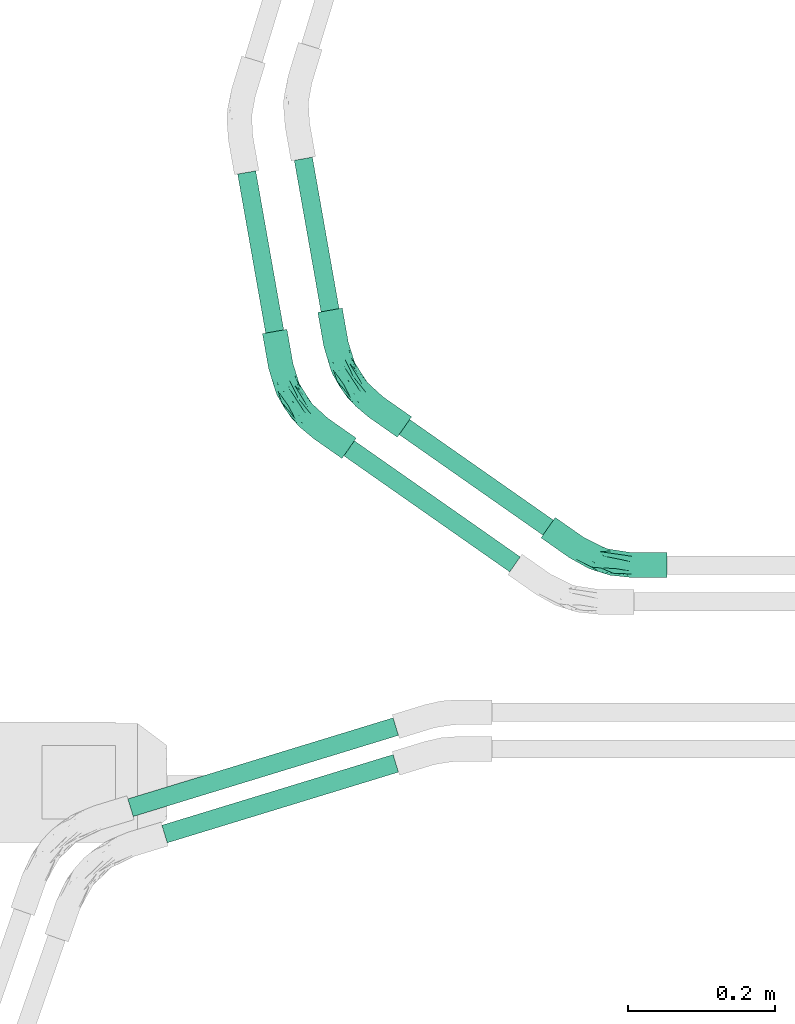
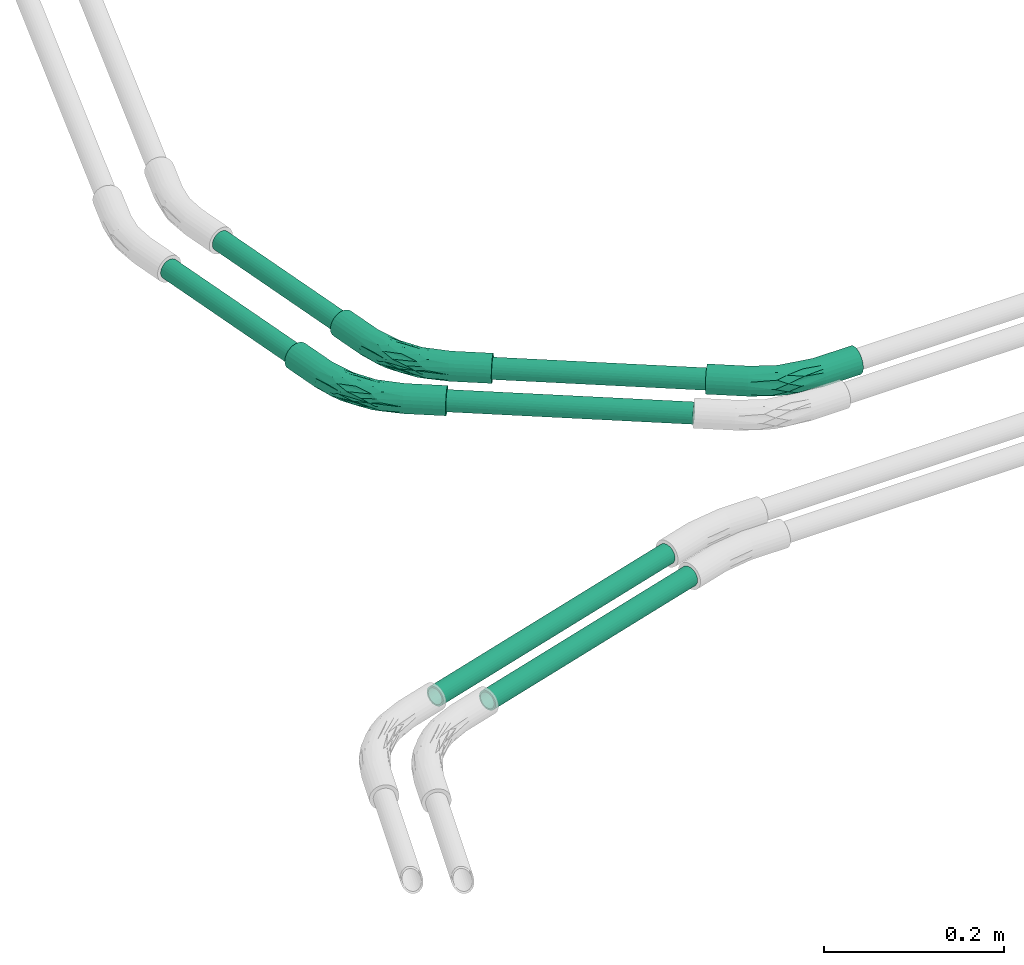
# One storey, part 4 of 22: 6 flow segments, 3 flow fittings.
"""IFC2X3 building model written with IfcOpenShell, lengths in millimetres."""

from ifc_helpers import new_model, entity, si_unit, converted_unit, derived_unit, direction, frame, origin_with_axes, origin_2d_with_axis, place, context, subcontext, project, spatial, hollow_circle, extrude, open_shell, surface_model, source, transform, mapped, type_object, element, save


model = new_model("IFC2X3")

# Units and contexts
model_context = context("Model", 3, precision=0.01, world=frame((0.0, 4.29681676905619e-09, 0.0)), true_north=direction((4.01073788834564e-13, 1.0)))
plan_context = context("Plan", 3, precision=0.01, world=frame((0.0, 4.29681676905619e-09, 0.0)), true_north=direction((4.01073788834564e-13, 1.0)))
body_context = subcontext(model_context, "Body", "Model", "MODEL_VIEW")
ifc_project = project(units=[converted_unit("PLANEANGLEUNIT", "DEGREE", entity("IfcPositiveLengthMeasure", 0.0174532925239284), si_unit("PLANEANGLEUNIT", "RADIAN"), dimensions=[0, 0, 0, 0, 0, 0, 0]), si_unit("AREAUNIT", "SQUARE_METRE"), si_unit("LENGTHUNIT", "METRE", prefix="MILLI"), si_unit("MASSUNIT", "GRAM", prefix="KILO"), si_unit("POWERUNIT", "WATT"), si_unit("PRESSUREUNIT", "PASCAL", prefix="KILO"), si_unit("FORCEUNIT", "NEWTON", prefix="KILO"), si_unit("ELECTRICVOLTAGEUNIT", "VOLT"), si_unit("ELECTRICCURRENTUNIT", "AMPERE"), si_unit("THERMODYNAMICTEMPERATUREUNIT", "DEGREE_CELSIUS"), si_unit("TIMEUNIT", "SECOND"), si_unit("VOLUMEUNIT", "CUBIC_METRE"), derived_unit("LINEARVELOCITYUNIT", [(si_unit("LENGTHUNIT", "METRE"), 1), (si_unit("TIMEUNIT", "SECOND"), -1)]), derived_unit("VOLUMETRICFLOWRATEUNIT", [(si_unit("VOLUMEUNIT", "CUBIC_METRE"), 1), (si_unit("TIMEUNIT", "SECOND"), -1)]), derived_unit("THERMALTRANSMITTANCEUNIT", [(si_unit("POWERUNIT", "WATT"), 1), (si_unit("THERMODYNAMICTEMPERATUREUNIT", "KELVIN"), -1), (si_unit("AREAUNIT", "SQUARE_METRE"), -1)]), derived_unit("SOUNDPRESSUREUNIT", [(si_unit("PRESSUREUNIT", "PASCAL"), 1)])], contexts=[model_context, plan_context])

# Site, building, storey
site_placement = place(None, frame((0.0, -4.29681676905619e-09, 0.0), z_axis=(0.0, 0.0, 1.0), x_axis=(1.0, 0.0, 0.0)))
site = spatial("IfcSite", under=ifc_project, at=site_placement, Name="ENGM", CompositionType="ELEMENT")
building_placement = place(site_placement, frame((0.0, 4.29681676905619e-09, 0.0), z_axis=(0.0, 0.0, 1.0), x_axis=(1.0, 0.0, 0.0)))
building = spatial("IfcBuilding", under=site, at=building_placement, Name="TI", CompositionType="ELEMENT")
storey_placement = place(building_placement, frame((0.0, 0.0, 210900.0), z_axis=(0.0, 0.0, 1.0), x_axis=(1.0, 0.0, 0.0)))
storey = spatial("IfcBuildingStorey", under=building, at=storey_placement, Name="Nivå F", CompositionType="ELEMENT", Elevation=210900.0)

# Flow fittings
cable_carrier_fitting_type = type_object("IfcCableCarrierFittingType", Name="Trekkerør, glatt bend", PredefinedType="BEND")
shared_shape_1 = source(origin_with_axes(), body_context, "Body", "SurfaceModel", [
    surface_model("IfcShellBasedSurfaceModel", [(-101.90646, 8.46055, -14.6541), (-101.90646, 4.3795, -16.34452), (-101.90646, 0.0, -16.92109), (-101.90646, 14.6541, -8.46055), (-101.90646, -8.46055, -14.6541), (-101.90646, 11.96502, -11.96502), (-101.90646, -16.92109, 0.0), (-101.90646, -16.34452, 4.3795), (-101.90646, -11.96502, -11.96502), (-101.90646, -14.6541, -8.46055), (-101.90646, -4.3795, -16.34452), (-101.90646, -16.34452, -4.3795), (-101.90646, 16.92109, 0.0), (-101.90646, 16.34452, -4.3795), (-101.90646, 16.34452, 4.3795), (-101.90646, 14.6541, 8.46055), (-101.90646, 8.46055, 14.6541), (-101.90646, 11.96502, 11.96502), (-101.90646, 0.0, 16.92109), (-101.90646, 4.3795, 16.34452), (-101.90646, -11.96502, 11.96502), (-101.90646, -8.46055, 14.6541), (-101.90646, -14.6541, 8.46055), (-101.90646, -4.3795, 16.34452), (-54.58849, -16.92109, 0.0), (-54.58849, -16.34452, 4.3795), (-54.58849, -14.6541, 8.46055), (-54.58849, -11.96502, 11.96502), (-54.58849, -8.46055, 14.6541), (-54.58849, -4.3795, 16.34452), (-54.58849, 0.0, 16.92109), (-54.58849, 4.3795, 16.34452), (-54.58849, 8.46055, 14.6541), (-54.58849, 11.96502, 11.96502), (-54.58849, 14.6541, 8.46055), (-54.58849, 16.34452, 4.3795), (-54.58849, 16.92109, 0.0), (-54.58849, 16.34452, -4.3795), (-54.58849, 14.6541, -8.46055), (-54.58849, 11.96502, -11.96502), (-54.58849, 8.46055, -14.6541), (-54.58849, 4.3795, -16.34452), (-54.58849, 0.0, -16.92109), (-54.58849, -4.3795, -16.34452), (-54.58849, -8.46055, -14.6541), (-54.58849, -11.96502, -11.96502), (-54.58849, -14.6541, -8.46055), (-54.58849, -16.34452, -4.3795), (10.9245, -1.31078, 3.47544), (-13.36235, -10.76027, 3.27049), (-16.09967, -11.85394, 0.0), (41.69667, 35.50312, 16.34452), (38.59989, 38.59989, 16.92109), (22.26214, 21.90343, 16.76352), (-19.66365, -2.12805, 15.57779), (-29.58477, -8.16493, 13.36262), (-20.60685, -9.47816, 10.19127), (-34.07223, 17.39409, 6.62821), (-10.25807, 24.76518, 5.65746), (-29.40446, 19.36118, 3.4046), (-3.22837, 7.79397, 16.74683), (-31.22977, -0.25365, 16.76352), (35.50312, 41.69667, 16.34452), (32.61738, 44.5824, 14.6541), (17.47707, 29.1678, 15.66764), (-16.62388, 19.5721, 10.43045), (-25.92736, 13.63005, 13.4985), (5.09993, 25.84703, 13.50914), (-21.17216, 6.44783, 16.79403), (19.76619, 3.00218, 0.0), (-6.56017, 15.83764, 15.71089), (-32.9829, 8.26659, 15.66764), (19.50033, 6.79523, 10.18462), (48.96191, 28.23788, 8.46055), (47.06044, 30.13935, 11.96502), (-0.14544, 0.35113, 13.28643), (-24.85868, 20.8351, 0.0), (44.5824, 32.61738, 14.6541), (26.69306, 15.14611, 13.36262), (8.9424, 34.00903, 7.47137), (8.93562, 35.31889, 4.60583), (25.73601, 8.11548, 6.36012), (-6.07752, -7.50254, 6.29064), (28.23788, 48.96191, 8.46055), (10.0687, 32.56851, 10.38353), (30.13935, 47.06044, 11.96502), (-30.89964, -14.04008, 5.64535), (16.01237, 12.75836, 15.5789), (12.05401, 20.50658, 16.79305), (50.15722, 27.04257, 4.3795), (50.56491, 26.63487, 0.0), (32.88314, 11.79305, 2.69799), (2.8451, 32.31038, 0.0), (26.63487, 50.56491, 0.0), (27.04257, 50.15722, 4.3795), (-32.9829, 8.26659, -15.66764), (16.55602, 18.09298, -16.75967), (38.59989, 38.59989, -16.92109), (41.69667, 35.50312, -16.34452), (30.13935, 47.06044, -11.96502), (32.61738, 44.5824, -14.6541), (8.69552, 27.97131, -13.4985), (-6.56017, 15.83764, -15.71089), (-21.88281, 14.67041, -13.50914), (-31.29267, 18.65579, -4.60583), (-30.37125, 17.72478, -7.47137), (-10.25807, 24.76517, -5.65746), (-1.59965, 3.86188, -15.54749), (17.63726, 9.2923, -13.33594), (-19.1381, -5.92521, -13.33619), (-2.08471, 25.59442, -10.43045), (-30.14906, 15.90977, -10.38353), (-24.73941, 5.56629, -16.79215), (10.41167, 19.53028, -16.79403), (-18.36618, -11.17146, -6.33871), (-28.92763, -11.20296, -10.21852), (-19.67101, 2.27248, -16.75686), (-22.81878, -13.17372, -3.2081), (17.47707, 29.1678, -15.66764), (-30.36783, -4.42984, -15.59506), (24.60567, 18.34093, -15.59506), (35.50312, 41.69667, -16.34452), (7.10167, 34.48251, -3.4046), (27.04257, 50.15722, -4.3795), (44.5824, 32.61738, -14.6541), (47.06044, 30.13935, -11.96502), (28.23788, 48.96191, -8.46055), (11.79322, 36.39219, -6.62821), (1.03493, -2.49855, -10.11808), (48.96191, 28.23788, -8.46055), (28.37661, 12.53324, -10.21852), (20.88626, 5.08744, -6.33871), (25.45054, 6.82009, -3.2081), (2.19574, -5.30098, -3.30061), (50.15722, 27.04257, -4.3795), (60.50143, 83.61607, -4.3795), (72.05875, 72.05875, -16.92109), (68.96197, 75.15552, -16.34452), (66.07624, 78.04126, -14.6541), (63.5982, 80.51929, -11.96502), (61.69674, 82.42076, -8.46055), (75.15552, 68.96197, -16.34452), (80.51929, 63.5982, -11.96502), (78.04126, 66.07624, -14.6541), (83.61607, 60.50143, -4.3795), (82.42076, 61.69674, -8.46055), (83.61607, 60.50143, 4.3795), (84.02377, 60.09373, 0.0), (75.15552, 68.96197, 16.34452), (60.50143, 83.61607, 4.3795), (61.69674, 82.42076, 8.46055), (66.07624, 78.04126, 14.6541), (72.05875, 72.05875, 16.92109), (63.5982, 80.51929, 11.96502), (68.96197, 75.15552, 16.34452), (80.51929, 63.5982, 11.96502), (82.42076, 61.69674, 8.46055), (78.04126, 66.07624, 14.6541), (60.09373, 84.02377, 0.0)], [open_shell([[[0, 1, 2]], [[3, 0, 2]], [[4, 3, 2]], [[5, 0, 3]], [[3, 6, 7]], [[8, 9, 4]], [[2, 10, 4]], [[9, 11, 4]], [[11, 3, 4]], [[3, 11, 6]], [[12, 13, 3]], [[12, 7, 14]], [[14, 7, 15]], [[16, 17, 18]], [[15, 18, 17]], [[18, 19, 16]], [[20, 21, 22]], [[15, 7, 22]], [[23, 18, 21]], [[15, 22, 21]], [[15, 21, 18]], [[3, 7, 12]], [[7, 24, 25]], [[26, 22, 25]], [[21, 27, 28]], [[26, 27, 20]], [[23, 28, 29]], [[24, 7, 6]], [[25, 22, 7]], [[26, 20, 22]], [[27, 21, 20]], [[23, 21, 28]], [[29, 18, 23]], [[29, 30, 18]], [[16, 31, 32]], [[33, 17, 32]], [[14, 34, 35]], [[33, 34, 15]], [[12, 35, 36]], [[31, 19, 30]], [[31, 16, 19]], [[30, 19, 18]], [[32, 17, 16]], [[33, 15, 17]], [[14, 15, 34]], [[35, 12, 14]], [[13, 36, 37]], [[38, 3, 37]], [[0, 39, 40]], [[38, 39, 5]], [[1, 40, 41]], [[36, 13, 12]], [[37, 3, 13]], [[38, 5, 3]], [[39, 0, 5]], [[1, 0, 40]], [[41, 2, 1]], [[41, 42, 2]], [[4, 43, 44]], [[45, 8, 44]], [[11, 46, 47]], [[45, 46, 9]], [[6, 47, 24]], [[43, 10, 42]], [[43, 4, 10]], [[42, 10, 2]], [[44, 8, 4]], [[45, 9, 8]], [[11, 9, 46]], [[47, 6, 11]], [[48, 49, 50]], [[49, 24, 50]], [[51, 52, 53]], [[29, 28, 54]], [[27, 55, 28]], [[56, 27, 26]], [[57, 58, 59]], [[60, 61, 54]], [[61, 30, 29]], [[62, 63, 64]], [[65, 66, 67]], [[31, 30, 68]], [[48, 50, 69]], [[67, 66, 70]], [[33, 32, 66]], [[65, 58, 57]], [[71, 32, 31]], [[72, 73, 74]], [[56, 72, 75]], [[59, 76, 36]], [[74, 77, 78]], [[36, 35, 59]], [[58, 79, 80]], [[81, 72, 82]], [[70, 71, 68]], [[83, 84, 85]], [[25, 49, 86]], [[34, 33, 65]], [[87, 77, 51]], [[54, 87, 60]], [[72, 56, 82]], [[88, 70, 68]], [[72, 81, 73]], [[73, 81, 89]], [[88, 62, 64]], [[78, 72, 74]], [[60, 88, 68]], [[90, 89, 91]], [[48, 81, 82]], [[55, 56, 75]], [[84, 67, 85]], [[59, 92, 76]], [[26, 86, 56]], [[92, 80, 93]], [[75, 78, 87]], [[80, 79, 94]], [[87, 51, 53]], [[70, 64, 67]], [[61, 68, 30]], [[65, 84, 79]], [[60, 53, 88]], [[67, 63, 85]], [[88, 52, 62]], [[65, 33, 66]], [[75, 87, 54]], [[91, 81, 48]], [[66, 32, 71]], [[55, 54, 28]], [[79, 84, 83]], [[67, 84, 65]], [[56, 55, 27]], [[54, 55, 75]], [[87, 78, 77]], [[72, 78, 75]], [[94, 79, 83]], [[65, 79, 58]], [[93, 80, 94]], [[92, 58, 80]], [[54, 61, 29]], [[68, 61, 60]], [[88, 53, 52]], [[87, 53, 60]], [[48, 82, 49]], [[91, 48, 69]], [[90, 91, 69]], [[81, 91, 89]], [[86, 49, 82]], [[24, 49, 25]], [[56, 86, 82]], [[26, 25, 86]], [[68, 71, 31]], [[66, 71, 70]], [[67, 64, 63]], [[88, 64, 70]], [[57, 35, 34]], [[92, 59, 58]], [[35, 57, 59]], [[65, 57, 34]], [[40, 95, 41]], [[96, 97, 98]], [[99, 100, 101]], [[102, 95, 103]], [[76, 104, 36]], [[104, 105, 37]], [[104, 106, 105]], [[107, 108, 109]], [[105, 110, 111]], [[40, 39, 103]], [[110, 99, 101]], [[112, 102, 113]], [[114, 46, 115]], [[116, 113, 96]], [[24, 47, 117]], [[110, 101, 103]], [[114, 47, 46]], [[101, 100, 118]], [[119, 44, 43]], [[112, 41, 95]], [[46, 45, 115]], [[45, 44, 109]], [[107, 119, 116]], [[113, 116, 112]], [[96, 98, 120]], [[113, 121, 97]], [[122, 76, 92]], [[112, 116, 42]], [[93, 123, 122]], [[124, 125, 108]], [[43, 42, 116]], [[110, 126, 99]], [[102, 103, 101]], [[106, 122, 127]], [[100, 121, 118]], [[128, 115, 109]], [[109, 44, 119]], [[127, 110, 106]], [[128, 109, 108]], [[113, 102, 118]], [[120, 98, 124]], [[113, 97, 96]], [[129, 130, 125]], [[107, 120, 108]], [[42, 41, 112]], [[107, 116, 96]], [[128, 130, 131]], [[128, 131, 114]], [[69, 132, 90]], [[69, 133, 132]], [[50, 117, 133]], [[133, 117, 114]], [[133, 69, 50]], [[129, 134, 131]], [[130, 108, 125]], [[122, 92, 93]], [[111, 103, 39]], [[38, 111, 39]], [[105, 111, 38]], [[103, 111, 110]], [[109, 115, 45]], [[114, 115, 128]], [[131, 130, 129]], [[108, 130, 128]], [[37, 105, 38]], [[110, 105, 106]], [[36, 104, 37]], [[76, 106, 104]], [[116, 119, 43]], [[109, 119, 107]], [[108, 120, 124]], [[96, 120, 107]], [[114, 131, 133]], [[132, 133, 131]], [[103, 95, 40]], [[112, 95, 102]], [[113, 118, 121]], [[101, 118, 102]], [[24, 117, 50]], [[47, 114, 117]], [[131, 134, 132]], [[90, 132, 134]], [[127, 123, 126]], [[76, 122, 106]], [[123, 127, 122]], [[110, 127, 126]], [[135, 136, 137]], [[135, 137, 138]], [[139, 140, 135]], [[139, 135, 138]], [[136, 135, 141]], [[141, 142, 143]], [[142, 141, 144]], [[142, 144, 145]], [[141, 135, 144]], [[144, 146, 147]], [[144, 135, 148]], [[135, 149, 150]], [[150, 151, 135]], [[151, 152, 135]], [[151, 150, 153]], [[151, 154, 152]], [[146, 155, 156]], [[155, 146, 157]], [[146, 148, 157]], [[146, 144, 148]], [[152, 148, 135]], [[149, 135, 158]], [[89, 147, 146]], [[156, 73, 146]], [[77, 155, 157]], [[156, 155, 74]], [[51, 157, 148]], [[147, 89, 90]], [[146, 73, 89]], [[156, 74, 73]], [[155, 77, 74]], [[51, 77, 157]], [[148, 52, 51]], [[148, 152, 52]], [[63, 154, 151]], [[153, 85, 151]], [[94, 150, 149]], [[153, 150, 83]], [[93, 149, 158]], [[154, 62, 152]], [[154, 63, 62]], [[152, 62, 52]], [[151, 85, 63]], [[153, 83, 85]], [[94, 83, 150]], [[149, 93, 94]], [[93, 158, 135]], [[140, 123, 135]], [[138, 137, 121]], [[139, 138, 99]], [[126, 140, 139]], [[140, 126, 123]], [[123, 93, 135]], [[99, 138, 100]], [[100, 138, 121]], [[137, 97, 121]], [[99, 126, 139]], [[137, 136, 97]], [[124, 141, 143]], [[142, 125, 143]], [[134, 145, 144]], [[142, 145, 129]], [[90, 144, 147]], [[141, 98, 136]], [[141, 124, 98]], [[136, 98, 97]], [[143, 125, 124]], [[142, 129, 125]], [[134, 129, 145]], [[144, 90, 134]]])]),
])
for number, where, z_axis, x_axis, name in (
    (1, (583094.99141, 571511.9697, -56.7999999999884), (0.0, 0.0, 1.0), (0.173647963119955, -0.984807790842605, 0.0), "Trekkerør, glatt bend"),
    (2, (583170.24907, 571540.9023, -56.7999999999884), (0.0, 0.0, 1.0), (0.173647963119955, -0.984807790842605, 0.0), "Trekkerør, glatt bend"),
):
    element("IfcFlowFitting", number, at=place(storey_placement, frame(where, z_axis=z_axis, x_axis=x_axis)), inside=storey, type_object=cable_carrier_fitting_type, Name=name, context=body_context, shape_type="MappedRepresentation", body=[
        mapped(shared_shape_1, transform((0.0, 0.0, 0.0), scale=1.0)),
    ])
shared_shape_2 = source(origin_with_axes(), body_context, "Body", "SurfaceModel", [
    surface_model("IfcShellBasedSurfaceModel", [(-88.87066, 8.46055, -14.6541), (-88.87066, 4.3795, -16.34452), (-88.87066, 0.0, -16.92109), (-88.87066, 14.6541, -8.46055), (-88.87066, -8.46055, -14.6541), (-88.87066, 11.96502, -11.96502), (-88.87066, -16.92109, 0.0), (-88.87066, -16.34452, 4.3795), (-88.87066, -11.96502, -11.96502), (-88.87066, -14.6541, -8.46055), (-88.87066, -4.3795, -16.34452), (-88.87066, -16.34452, -4.3795), (-88.87066, 16.92109, 0.0), (-88.87066, 16.34452, -4.3795), (-88.87066, 16.34452, 4.3795), (-88.87066, 14.6541, 8.46055), (-88.87066, 8.46055, 14.6541), (-88.87066, 11.96502, 11.96502), (-88.87066, 0.0, 16.92109), (-88.87066, 4.3795, 16.34452), (-88.87066, -11.96502, 11.96502), (-88.87066, -8.46055, 14.6541), (-88.87066, -14.6541, 8.46055), (-88.87066, -4.3795, 16.34452), (-41.55269, -16.92109, 0.0), (-41.55269, -16.34452, 4.3795), (-41.55269, -14.6541, 8.46055), (-41.55269, -11.96502, 11.96502), (-41.55269, -8.46055, 14.6541), (-41.55269, -4.3795, 16.34452), (-41.55269, 0.0, 16.92109), (-41.55269, 4.3795, 16.34452), (-41.55269, 8.46055, 14.6541), (-41.55269, 11.96502, 11.96502), (-41.55269, 14.6541, 8.46055), (-41.55269, 16.34452, 4.3795), (-41.55269, 16.92109, 0.0), (-41.55269, 16.34452, -4.3795), (-41.55269, 14.6541, -8.46055), (-41.55269, 11.96502, -11.96502), (-41.55269, 8.46055, -14.6541), (-41.55269, 4.3795, -16.34452), (-41.55269, 0.0, -16.92109), (-41.55269, -4.3795, -16.34452), (-41.55269, -8.46055, -14.6541), (-41.55269, -11.96502, -11.96502), (-41.55269, -14.6541, -8.46055), (-41.55269, -16.34452, -4.3795), (2.90029, -9.19856, 5.38748), (-11.48104, -13.84885, 0.0), (-9.27928, -9.85588, 10.22003), (1.20669, -3.82712, 13.34122), (19.86976, 0.15259, 10.23803), (34.03797, 23.83364, 16.92109), (11.21471, 11.56856, 16.91377), (36.54995, 20.24616, 16.34452), (-9.97623, -2.91658, 15.59436), (-1.22017, 3.86989, 16.75881), (24.33243, 37.69459, 0.0), (2.41695, 25.3289, 3.24961), (24.66313, 37.22229, 4.3795), (40.90082, 14.03247, 11.96502), (38.89074, 16.90317, 14.6541), (-11.06472, 5.74517, 16.78899), (-3.83563, 12.16507, 15.68042), (-12.01933, 13.8649, 13.48391), (29.1852, 30.76412, 14.6541), (7.86439, 19.14087, 14.46607), (31.52599, 27.42112, 16.34452), (-5.93803, 18.83303, 10.39535), (-1.29023, 22.79398, 6.56595), (42.44321, 11.82971, 8.46055), (-21.1026, 18.54685, 2.632), (27.17511, 33.63481, 11.96502), (25.63272, 35.83757, 8.46055), (17.34809, -4.75906, 0.0), (17.57572, 6.73024, 15.60468), (9.01394, 14.11226, 16.50988), (43.74351, 9.97269, 0.0), (43.4128, 10.44499, 4.3795), (-7.01146, 22.2375, 0.0), (-15.82201, 3.04391, -16.91377), (-1.22017, 3.86989, -16.75881), (-18.25749, -4.56793, -15.60468), (2.90029, -9.19856, -5.38748), (-16.36388, -11.27183, -10.23803), (13.25424, -2.75109, -10.22003), (-3.83563, 12.16507, -15.68042), (5.7684, 11.05263, -16.78899), (-15.47825, 6.38991, -16.50988), (-12.0172, 19.41179, -6.56595), (-5.93803, 18.83303, -10.39535), (9.84493, 3.33301, -15.59436), (1.89307, 18.25147, -13.48391), (-17.42088, 11.16845, -14.46607), (1.20669, -3.82712, -13.34122), (-16.50791, 19.36192, -3.24961), (43.4128, 10.44499, -4.3795), (40.90082, 14.03247, -11.96502), (42.44321, 11.82971, -8.46055), (24.66313, 37.22229, -4.3795), (6.6482, 27.29665, -2.632), (36.54995, 20.24616, -16.34452), (38.89074, 16.90317, -14.6541), (25.63272, 35.83757, -8.46055), (27.17511, 33.63481, -11.96502), (29.1852, 30.76412, -14.6541), (31.52599, 27.42112, -16.34452), (34.03797, 23.83364, -16.92109), (75.31056, 47.38664, -16.34452), (72.79858, 50.97411, -16.92109), (70.2866, 54.56159, -16.34452), (67.94581, 57.90459, -14.6541), (65.93572, 60.77528, -11.96502), (64.39334, 62.97805, -8.46055), (63.42374, 64.36276, -4.3795), (63.42374, 64.36276, 4.3795), (82.50412, 37.11316, 0.0), (77.65135, 44.04364, -14.6541), (81.20382, 38.97018, -8.46055), (79.66143, 41.17294, -11.96502), (82.17341, 37.58546, -4.3795), (63.09304, 64.83506, 0.0), (64.39334, 62.97805, 8.46055), (79.66143, 41.17294, 11.96502), (67.94581, 57.90459, 14.6541), (65.93572, 60.77528, 11.96502), (70.2866, 54.56159, 16.34452), (72.79858, 50.97411, 16.92109), (81.20382, 38.97018, 8.46055), (82.17341, 37.58546, 4.3795), (75.31056, 47.38664, 16.34452), (77.65135, 44.04364, 14.6541)], [open_shell([[[0, 1, 2]], [[3, 0, 2]], [[4, 3, 2]], [[5, 0, 3]], [[3, 6, 7]], [[8, 9, 4]], [[2, 10, 4]], [[9, 11, 4]], [[11, 3, 4]], [[3, 11, 6]], [[12, 13, 3]], [[12, 7, 14]], [[14, 7, 15]], [[16, 17, 18]], [[15, 18, 17]], [[18, 19, 16]], [[20, 21, 22]], [[15, 7, 22]], [[23, 18, 21]], [[15, 22, 21]], [[15, 21, 18]], [[3, 7, 12]], [[7, 24, 25]], [[26, 22, 25]], [[21, 27, 28]], [[26, 27, 20]], [[23, 28, 29]], [[24, 7, 6]], [[25, 22, 7]], [[26, 20, 22]], [[27, 21, 20]], [[23, 21, 28]], [[29, 18, 23]], [[29, 30, 18]], [[16, 31, 32]], [[33, 17, 32]], [[14, 34, 35]], [[33, 34, 15]], [[12, 35, 36]], [[31, 19, 30]], [[31, 16, 19]], [[30, 19, 18]], [[32, 17, 16]], [[33, 15, 17]], [[14, 15, 34]], [[35, 12, 14]], [[13, 36, 37]], [[38, 3, 37]], [[0, 39, 40]], [[38, 39, 5]], [[1, 40, 41]], [[36, 13, 12]], [[37, 3, 13]], [[38, 5, 3]], [[39, 0, 5]], [[1, 0, 40]], [[41, 2, 1]], [[41, 42, 2]], [[4, 43, 44]], [[45, 8, 44]], [[11, 46, 47]], [[45, 46, 9]], [[6, 47, 24]], [[43, 10, 42]], [[43, 4, 10]], [[42, 10, 2]], [[44, 8, 4]], [[45, 9, 8]], [[11, 9, 46]], [[47, 6, 11]], [[25, 48, 26]], [[49, 25, 24]], [[27, 26, 50]], [[51, 50, 52]], [[27, 51, 28]], [[27, 50, 51]], [[53, 54, 55]], [[56, 57, 29]], [[57, 30, 29]], [[29, 28, 56]], [[58, 59, 60]], [[61, 62, 51]], [[31, 63, 64]], [[64, 32, 31]], [[33, 32, 65]], [[66, 67, 68]], [[26, 48, 50]], [[33, 65, 69]], [[28, 51, 56]], [[69, 34, 33]], [[34, 69, 70]], [[52, 48, 71]], [[72, 36, 35]], [[73, 74, 69]], [[49, 75, 48]], [[31, 30, 63]], [[76, 62, 55]], [[56, 76, 57]], [[48, 52, 50]], [[77, 63, 54]], [[68, 54, 53]], [[25, 49, 48]], [[51, 76, 56]], [[61, 52, 71]], [[55, 54, 57]], [[75, 78, 79]], [[54, 68, 77]], [[57, 76, 55]], [[54, 63, 57]], [[70, 59, 72]], [[79, 71, 48]], [[80, 59, 58]], [[30, 57, 63]], [[70, 69, 74]], [[67, 65, 64]], [[73, 65, 67]], [[34, 70, 35]], [[60, 70, 74]], [[32, 64, 65]], [[65, 73, 69]], [[64, 63, 77]], [[59, 70, 60]], [[51, 52, 61]], [[79, 48, 75]], [[68, 64, 77]], [[76, 51, 62]], [[72, 59, 80]], [[36, 72, 80]], [[70, 72, 35]], [[68, 67, 64]], [[73, 67, 66]], [[42, 81, 43]], [[82, 83, 43]], [[84, 85, 86]], [[87, 88, 89]], [[38, 90, 91]], [[82, 92, 83]], [[39, 93, 94]], [[39, 91, 93]], [[94, 41, 40]], [[94, 93, 87]], [[95, 85, 45]], [[91, 39, 38]], [[49, 24, 47]], [[36, 96, 37]], [[41, 87, 89]], [[49, 47, 84]], [[95, 45, 44]], [[43, 81, 82]], [[84, 97, 75]], [[46, 45, 85]], [[43, 83, 44]], [[41, 81, 42]], [[81, 41, 89]], [[98, 99, 86]], [[36, 80, 96]], [[95, 83, 92]], [[58, 100, 101]], [[102, 103, 92]], [[95, 86, 85]], [[91, 90, 104]], [[105, 93, 91]], [[88, 81, 89]], [[106, 107, 87]], [[81, 88, 82]], [[96, 90, 37]], [[105, 91, 104]], [[104, 90, 100]], [[87, 107, 88]], [[102, 92, 82]], [[83, 95, 44]], [[95, 98, 86]], [[103, 98, 95]], [[103, 95, 92]], [[108, 102, 82]], [[49, 84, 75]], [[99, 84, 86]], [[78, 75, 97]], [[37, 90, 38]], [[105, 106, 93]], [[97, 84, 99]], [[85, 84, 46]], [[47, 46, 84]], [[108, 82, 88]], [[96, 101, 90]], [[106, 87, 93]], [[107, 108, 88]], [[101, 96, 80]], [[58, 101, 80]], [[90, 101, 100]], [[41, 94, 87]], [[39, 94, 40]], [[109, 110, 111]], [[112, 109, 111]], [[113, 114, 115]], [[113, 115, 112]], [[116, 117, 112]], [[118, 119, 120]], [[117, 118, 109]], [[119, 117, 121]], [[117, 119, 118]], [[109, 112, 117]], [[112, 115, 122]], [[116, 123, 117]], [[124, 117, 123]], [[124, 123, 125]], [[125, 123, 126]], [[127, 128, 125]], [[124, 129, 117]], [[130, 117, 129]], [[124, 131, 132]], [[131, 124, 128]], [[128, 124, 125]], [[112, 122, 116]], [[79, 117, 130]], [[129, 71, 130]], [[62, 124, 132]], [[129, 124, 61]], [[55, 132, 131]], [[117, 79, 78]], [[130, 71, 79]], [[129, 61, 71]], [[124, 62, 61]], [[55, 62, 132]], [[131, 53, 55]], [[131, 128, 53]], [[66, 127, 125]], [[126, 73, 125]], [[60, 123, 116]], [[126, 123, 74]], [[58, 116, 122]], [[127, 68, 128]], [[127, 66, 68]], [[128, 68, 53]], [[125, 73, 66]], [[126, 74, 73]], [[60, 74, 123]], [[116, 58, 60]], [[58, 122, 115]], [[114, 100, 115]], [[112, 111, 107]], [[113, 112, 105]], [[104, 114, 113]], [[114, 104, 100]], [[100, 58, 115]], [[105, 112, 106]], [[106, 112, 107]], [[111, 108, 107]], [[105, 104, 113]], [[111, 110, 108]], [[103, 109, 118]], [[120, 98, 118]], [[97, 119, 121]], [[120, 119, 99]], [[78, 121, 117]], [[109, 102, 110]], [[109, 103, 102]], [[110, 102, 108]], [[118, 98, 103]], [[120, 99, 98]], [[97, 99, 119]], [[121, 78, 97]]])]),
])
flow_fitting_placement = place(storey_placement, frame((583521.97067, 571294.62419, -56.7999999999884), z_axis=(0.0, 0.0, 1.0), x_axis=(0.819152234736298, -0.573576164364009, 0.0)))
element("IfcFlowFitting", 3, at=flow_fitting_placement, inside=storey, type_object=cable_carrier_fitting_type, Name="Trekkerør, glatt bend", context=body_context, shape_type="MappedRepresentation", body=[
    mapped(shared_shape_2, transform((0.0, 0.0, 0.0), scale=1.0)),
])

# Flow segments
cable_carrier_segment_type = type_object("IfcCableCarrierSegmentType", Name="Trekkerør, korrugert", PredefinedType="CONDUITSEGMENT")
shared_shape_3 = source(origin_with_axes(), body_context, "Body", "SweptSolid", [
    extrude(hollow_circle(Radius=12.5, WallThickness=2.0, at=origin_2d_with_axis()), frame((0.0, 0.0, 0.0), z_axis=(1.0, 0.0, 0.0), x_axis=(0.0, 1.0, 0.0)), (0.0, 0.0, 1.0), 377.2),
])
flow_segment_1_placement = place(storey_placement, frame((583241.94337, 571075.03123, -56.7999999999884), z_axis=(0.0, 0.0, 1.0), x_axis=(-0.956304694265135, -0.292371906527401, 0.0)))
element("IfcFlowSegment", 4, at=flow_segment_1_placement, inside=storey, type_object=cable_carrier_segment_type, Name="Trekkerør, korrugert", context=body_context, shape_type="MappedRepresentation", body=[
    mapped(shared_shape_3, transform((0.0, 0.0, 0.0), scale=1.0)),
])
shared_shape_4 = source(origin_with_axes(), body_context, "Body", "SweptSolid", [
    extrude(hollow_circle(Radius=12.5, WallThickness=2.0, at=origin_2d_with_axis()), frame((0.0, 0.0, 0.0), z_axis=(1.0, 0.0, 0.0), x_axis=(0.0, 1.0, 0.0)), (0.0, 0.0, 1.0), 328.8),
])
flow_segment_2_placement = place(storey_placement, frame((583241.94337, 571025.03123, -56.7999999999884), z_axis=(0.0, 0.0, 1.0), x_axis=(-0.956304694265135, -0.292371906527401, 0.0)))
element("IfcFlowSegment", 5, at=flow_segment_2_placement, inside=storey, type_object=cable_carrier_segment_type, Name="Trekkerør, korrugert", context=body_context, shape_type="MappedRepresentation", body=[
    mapped(shared_shape_4, transform((0.0, 0.0, 0.0), scale=1.0)),
])
shared_shape_5 = source(origin_with_axes(), body_context, "Body", "SweptSolid", [
    extrude(hollow_circle(Radius=12.5, WallThickness=2.0, at=origin_2d_with_axis()), frame((0.0, 0.0, 0.0), z_axis=(1.0, 0.0, 0.0), x_axis=(0.0, 1.0, 0.0)), (0.0, 0.0, 1.0), 275.3),
])
flow_segment_3_placement = place(storey_placement, frame((583404.00179, 571295.5983, -56.7999999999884), z_axis=(0.0, 0.0, 1.0), x_axis=(-0.819152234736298, 0.573576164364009, 0.0)))
element("IfcFlowSegment", 6, at=flow_segment_3_placement, inside=storey, type_object=cable_carrier_segment_type, Name="Trekkerør, korrugert", context=body_context, shape_type="MappedRepresentation", body=[
    mapped(shared_shape_5, transform((0.0, 0.0, 0.0), scale=1.0)),
])
shared_shape_6 = source(origin_with_axes(), body_context, "Body", "SweptSolid", [
    extrude(hollow_circle(Radius=12.5, WallThickness=2.0, at=origin_2d_with_axis()), frame((0.0, 0.0, 0.0), z_axis=(1.0, 0.0, 0.0), x_axis=(0.0, 1.0, 0.0)), (0.0, 0.0, 1.0), 219.6),
])
flow_segment_4_placement = place(storey_placement, frame((583077.29553, 571612.32797, -56.7999999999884), z_axis=(0.0, 0.0, 1.0), x_axis=(-0.173647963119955, 0.984807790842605, 0.0)))
element("IfcFlowSegment", 7, at=flow_segment_4_placement, inside=storey, type_object=cable_carrier_segment_type, Name="Trekkerør, korrugert", context=body_context, shape_type="MappedRepresentation", body=[
    mapped(shared_shape_6, transform((0.0, 0.0, 0.0), scale=1.0)),
])
shared_shape_7 = source(origin_with_axes(), body_context, "Body", "SweptSolid", [
    extrude(hollow_circle(Radius=12.5, WallThickness=2.0, at=origin_2d_with_axis()), frame((0.0, 0.0, 0.0), z_axis=(1.0, 0.0, 0.0), x_axis=(0.0, 1.0, 0.0)), (0.0, 0.0, 1.0), 238.6),
])
flow_segment_5_placement = place(storey_placement, frame((583449.17209, 571345.5983, -56.7999999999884), z_axis=(0.0, 0.0, 1.0), x_axis=(-0.819152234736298, 0.573576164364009, 0.0)))
element("IfcFlowSegment", 8, at=flow_segment_5_placement, inside=storey, type_object=cable_carrier_segment_type, Name="Trekkerør, korrugert", context=body_context, shape_type="MappedRepresentation", body=[
    mapped(shared_shape_7, transform((0.0, 0.0, 0.0), scale=1.0)),
])
shared_shape_8 = source(origin_with_axes(), body_context, "Body", "SweptSolid", [
    extrude(hollow_circle(Radius=12.5, WallThickness=2.0, at=origin_2d_with_axis()), frame((0.0, 0.0, 0.0), z_axis=(1.0, 0.0, 0.0), x_axis=(0.0, 1.0, 0.0)), (0.0, 0.0, 1.0), 209.2),
])
flow_segment_6_placement = place(storey_placement, frame((583152.5532, 571641.26058, -56.7999999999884), z_axis=(0.0, 0.0, 1.0), x_axis=(-0.173647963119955, 0.984807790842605, 0.0)))
element("IfcFlowSegment", 9, at=flow_segment_6_placement, inside=storey, type_object=cable_carrier_segment_type, Name="Trekkerør, korrugert", context=body_context, shape_type="MappedRepresentation", body=[
    mapped(shared_shape_8, transform((0.0, 0.0, 0.0), scale=1.0)),
])

save(model, "model.ifc")
